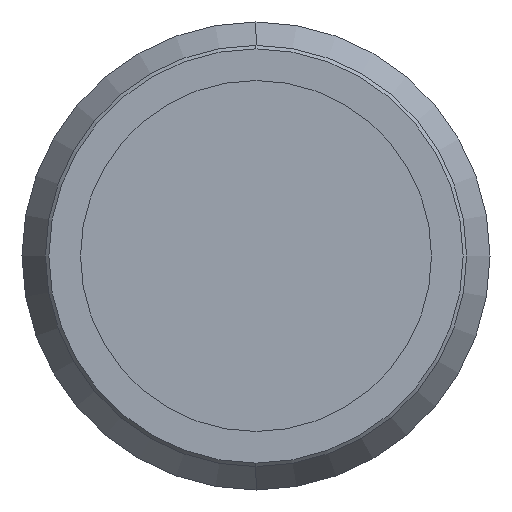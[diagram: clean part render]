
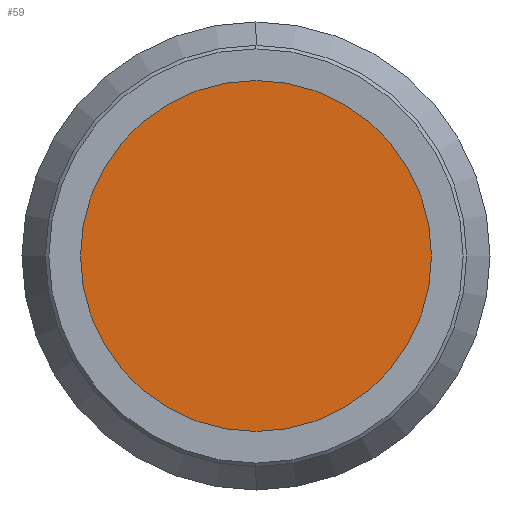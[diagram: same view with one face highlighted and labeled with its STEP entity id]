
A CAD part, left-side view. The second image highlights one B-rep face of the part: STEP entity #59.
In plain terms, the highlighted planar face has unit normal (-1, 0, 0).
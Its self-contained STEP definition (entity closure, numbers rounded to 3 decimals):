
#47 = FACE_OUTER_BOUND ( 'NONE', #576, .T. ) ;
#54 = DIRECTION ( 'NONE',  ( -1., 0., 0. ) ) ;
#59 = ADVANCED_FACE ( 'NONE', ( #47 ), #177, .T. ) ;
#164 = CARTESIAN_POINT ( 'NONE',  ( 2., 0., -15. ) ) ;
#177 = PLANE ( 'NONE',  #626 ) ;
#187 = ORIENTED_EDGE ( 'NONE', *, *, #480, .T. ) ;
#205 = AXIS2_PLACEMENT_3D ( 'NONE', #265, #389, #501 ) ;
#257 = VERTEX_POINT ( 'NONE', #164 ) ;
#265 = CARTESIAN_POINT ( 'NONE',  ( 2., 0., 0. ) ) ;
#333 = CARTESIAN_POINT ( 'NONE',  ( 2., 0., 15. ) ) ;
#389 = DIRECTION ( 'NONE',  ( -1., 0., 0. ) ) ;
#408 = DIRECTION ( 'NONE',  ( 0., 0., 1. ) ) ;
#428 = CIRCLE ( 'NONE', #205, 15. ) ;
#451 = DIRECTION ( 'NONE',  ( -1., 0., 0. ) ) ;
#480 = EDGE_CURVE ( 'NONE', #257, #671, #428, .T. ) ;
#501 = DIRECTION ( 'NONE',  ( 0., 0., 1. ) ) ;
#509 = ORIENTED_EDGE ( 'NONE', *, *, #561, .T. ) ;
#557 = CIRCLE ( 'NONE', #574, 15. ) ;
#560 = DIRECTION ( 'NONE',  ( 0., 0., 1. ) ) ;
#561 = EDGE_CURVE ( 'NONE', #671, #257, #557, .T. ) ;
#574 = AXIS2_PLACEMENT_3D ( 'NONE', #729, #451, #560 ) ;
#576 = EDGE_LOOP ( 'NONE', ( #509, #187 ) ) ;
#626 = AXIS2_PLACEMENT_3D ( 'NONE', #679, #54, #408 ) ;
#671 = VERTEX_POINT ( 'NONE', #333 ) ;
#679 = CARTESIAN_POINT ( 'NONE',  ( 2., 0., 0. ) ) ;
#729 = CARTESIAN_POINT ( 'NONE',  ( 2., 0., 0. ) ) ;
